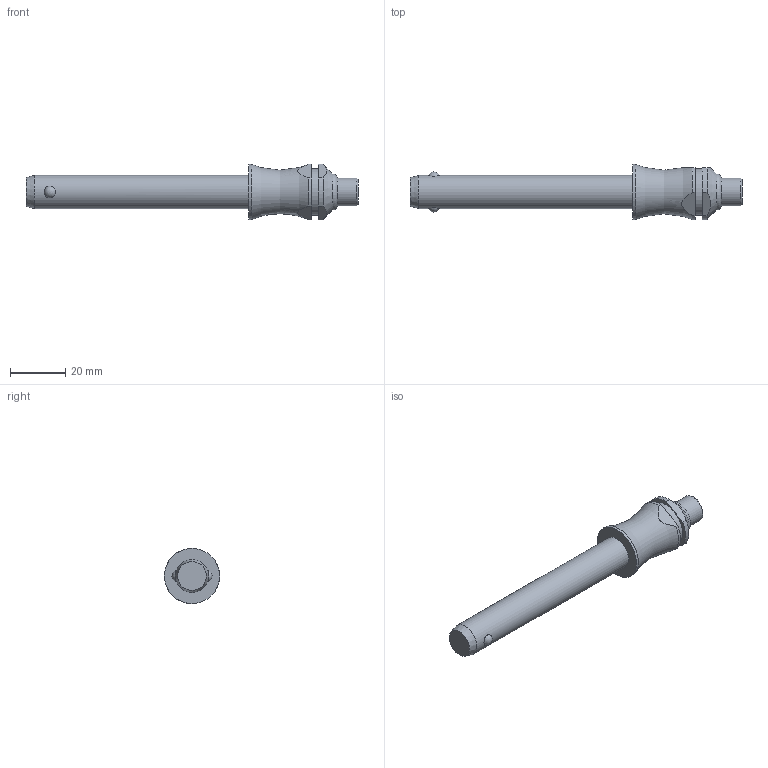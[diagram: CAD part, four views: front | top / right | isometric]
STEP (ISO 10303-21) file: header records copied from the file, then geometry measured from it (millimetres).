
FILE_DESCRIPTION( ( 'STEP AP203' ), '1' );
FILE_NAME( 'C:/Temp/Ganter_Step_05_03_2020/data/3_1/gn113_3/Stainless Steel-Ball lock pin GN 113.3-12-70 (deactivated).stp', '2020-03-12T08:18:46', ( 'License CC BY-ND 4.0' ), ( 'CADENAS' ), ' ', 'PARTsolutions', ' ' );
FILE_SCHEMA( ( 'CONFIG_CONTROL_DESIGN' ) );
Length unit declared in the file: millimetre
Products named in the file (1): _Stainless Steel-Ball lock pin GN 113.3-12-70 (deactivated)
Bounding box: 120.1 x 20 x 20 mm (x, y, z)
Volume: 17054.4 mm3; surface area: 5600.8 mm2
Topology: 1 solids, 1 shells, 28 faces, 60 edges, 39 vertices
Faces by surface type: plane 11, cylinder 10, cone 3, torus 2, sphere 2
Full cylindrical faces by diameter (mm): 10 x1, 12 x1, 17 x1, 20 x1
Entity records: 954 total; most frequent: CARTESIAN_POINT 338, DIRECTION 122, ORIENTED_EDGE 98, AXIS2_PLACEMENT_3D 52, EDGE_CURVE 49, EDGE_LOOP 42, VERTEX_POINT 38, FACE_OUTER_BOUND 34
